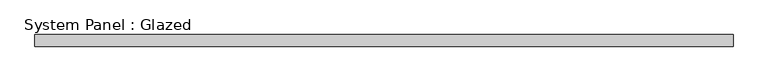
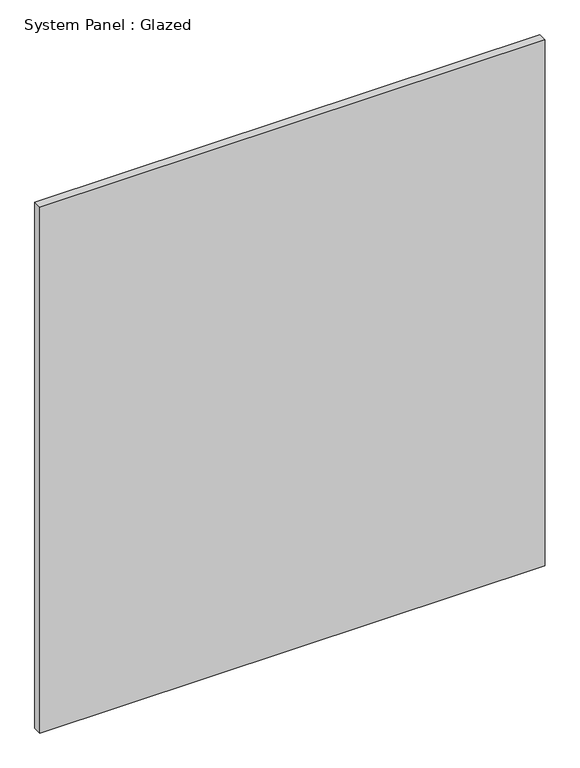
"""IFC4 building model written with IfcOpenShell, lengths in millimetres: plate geometry, System Panel : Glazed."""

from ifc_helpers import new_model, si_unit, origin, origin_with_axes, place, context, project, spatial, polyline, outline, extrude, source, transform, mapped, element, save


def system_panel_glazed_67cff217(model_context):
    return source(origin(), model_context, "Body", "SweptSolid", [
        extrude(outline(polyline([(733.425, 19.05), (-733.425, 19.05), (-733.425, 44.45), (733.425, 44.45), (733.425, 19.05)])), origin_with_axes(), (0.0, 0.0, 1.0), 1612.9),
    ])


if __name__ == "__main__":
    model = new_model("IFC4")
    model_context = context("Model", 3, world=origin())
    ifc_project = project(units=[si_unit("LENGTHUNIT", "METRE", prefix="MILLI")], contexts=[model_context])
    site = spatial("IfcSite", under=ifc_project)
    building = spatial("IfcBuilding", under=site)
    placement = place(None, origin())
    system_panel_glazed_shape = system_panel_glazed_67cff217(model_context)
    element("IfcPlate", 1, ObjectType="System Panel : Glazed", at=placement, inside=building, context=model_context, shape_type="MappedRepresentation", body=[
        mapped(system_panel_glazed_shape, transform((0.0, 0.0, 0.0), x_axis=(1.0, 0.0, 0.0), y_axis=(0.0, 1.0, 0.0), z_axis=(0.0, 0.0, 1.0))),
    ])
    save(model, "model.ifc")
